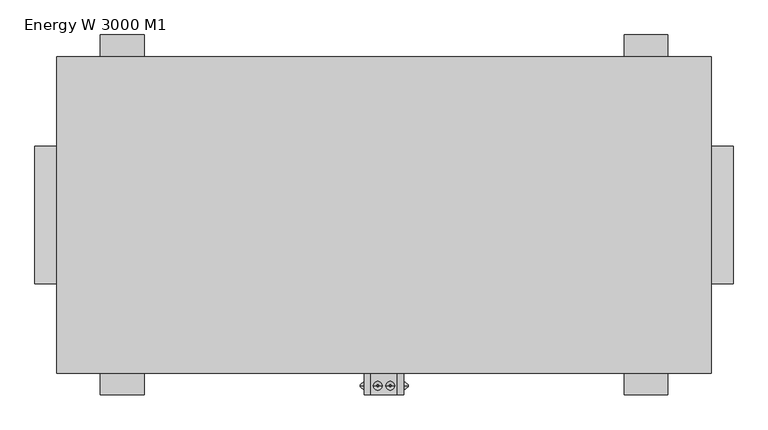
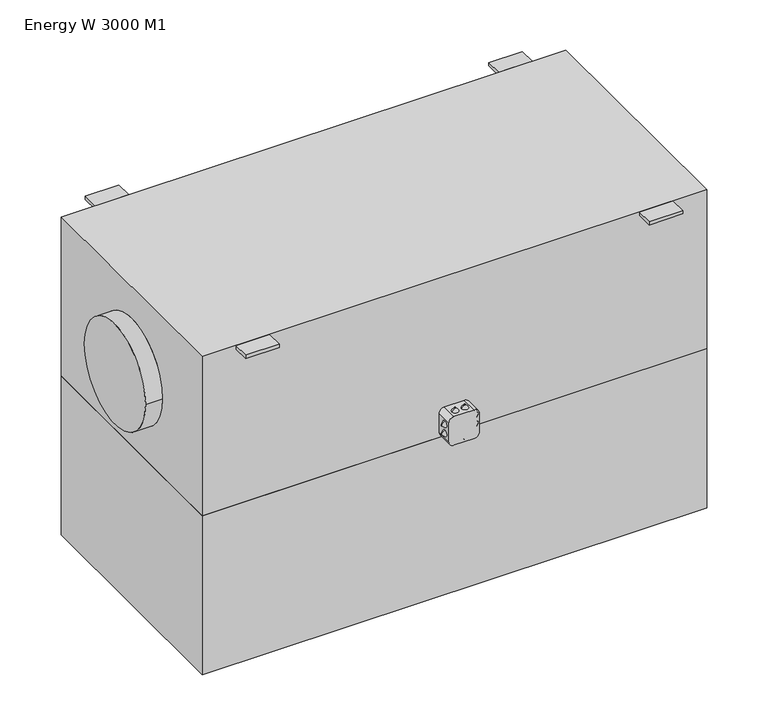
"""IFC4 building model written with IfcOpenShell, lengths in millimetres: proxy geometry, ADSK_КПВУ_ENERGY W_круглая : Energy W 3000 M1."""

from ifc_helpers import new_model, si_unit, point, frame, frame_2d, origin, place, context, project, spatial, polyline, circle_curve, trimmed, segment, composite_curve, outline, extrude, source, transform, mapped, element, save
from ifc_brep_helpers import plane_surface, cylinder_surface, revolved_surface, advanced_brep


def energy_w_3000_m1_f00fbe06(model_context):
    return source(origin(), model_context, "Body", "SolidModel", [
        advanced_brep(
        [(211.0, -391.4311792, -221.7092609), (211.0, -391.4311792, -217.7092609), (221.0, -391.4311792, -229.7092609), (221.0, -391.4311792, -209.7092609)],
        [
            (0, 1, circle_curve(frame((211.0, -391.4311792, -219.7092609), z_axis=(-1.0, 0.0, 0.0), x_axis=(0.0, 0.0, -1.0)), 2.0)),
            (1, 0, circle_curve(frame((211.0, -391.4311792, -219.7092609), z_axis=(-1.0, 0.0, 0.0), x_axis=(0.0, 0.0, 1.0)), 2.0)),
            (2, 3, circle_curve(frame((221.0, -391.4311792, -219.7092609), z_axis=(1.0, 0.0, 0.0), x_axis=(0.0, 0.0, 1.0)), 10.0)),
            (3, 2, circle_curve(frame((221.0, -391.4311792, -219.7092609), z_axis=(1.0, 0.0, 0.0), x_axis=(0.0, 0.0, -1.0)), 10.0)),
            (2, 0),
            (1, 3),
        ],
        [
            plane_surface(frame((211.0, -391.4311792, -219.7092609), z_axis=(-1.0, 0.0, 0.0), x_axis=(0.0, -1.0, 0.0))),
            plane_surface(frame((221.0, -391.4311792, -219.7092609), z_axis=(1.0, 0.0, 0.0), x_axis=(0.0, -1.0, 0.0))),
            revolved_surface(polyline([(211.0, -391.4311792, -217.7092609), (221.0, -391.4311792, -209.7092609)]), (208.5, -391.4311792, -219.7092609), (1.0, 0.0, 0.0)),
            revolved_surface(polyline([(211.0, -391.4311792, -221.7092609), (221.0, -391.4311792, -229.7092609)]), (208.5, -391.4311792, -219.7092609), (1.0, 0.0, 0.0)),
        ],
        [
            (0, [[1, 2]]),
            (1, [[3, 4]]),
            (2, [[-3, 5, -2, 6]]),
            (3, [[-4, -6, -1, -5]]),
        ],
    ),
        advanced_brep(
        [(211.0, -391.4311792, -189.0531164), (211.0, -391.4311792, -193.0531164), (221.0, -391.4311792, -181.0531164), (221.0, -391.4311792, -201.0531164)],
        [
            (0, 1, circle_curve(frame((211.0, -391.4311792, -191.0531164), z_axis=(-1.0, 0.0, 0.0), x_axis=(0.0, 0.0, 1.0)), 2.0)),
            (1, 0, circle_curve(frame((211.0, -391.4311792, -191.0531164), z_axis=(-1.0, 0.0, 0.0), x_axis=(0.0, 0.0, -1.0)), 2.0)),
            (2, 3, circle_curve(frame((221.0, -391.4311792, -191.0531164), z_axis=(1.0, 0.0, 0.0), x_axis=(0.0, 0.0, -1.0)), 10.0)),
            (3, 2, circle_curve(frame((221.0, -391.4311792, -191.0531164), z_axis=(1.0, 0.0, 0.0), x_axis=(0.0, 0.0, 1.0)), 10.0)),
            (3, 1),
            (0, 2),
        ],
        [
            plane_surface(frame((211.0, -391.4311792, -191.0531164), z_axis=(-1.0, 0.0, 0.0), x_axis=(0.0, 1.0, 0.0))),
            plane_surface(frame((221.0, -391.4311792, -191.0531164), z_axis=(1.0, 0.0, 0.0), x_axis=(0.0, 1.0, 0.0))),
            revolved_surface(polyline([(211.0, -391.4311792, -189.0531164), (221.0, -391.4311792, -181.0531164)]), (208.5, -391.4311792, -191.0531164), (1.0, 0.0, 0.0)),
            revolved_surface(polyline([(211.0, -391.4311792, -193.0531164), (221.0, -391.4311792, -201.0531164)]), (208.5, -391.4311792, -191.0531164), (1.0, 0.0, 0.0)),
        ],
        [
            (0, [[1, 2]]),
            (1, [[3, 4]]),
            (2, [[-4, 5, -1, 6]]),
            (3, [[-3, -6, -2, -5]]),
        ],
    ),
        advanced_brep(
        [(321.0, -391.4311792, -221.7092609), (321.0, -391.4311792, -217.7092609), (311.0, -391.4311792, -229.7092609), (311.0, -391.4311792, -209.7092609)],
        [
            (0, 1, circle_curve(frame((321.0, -391.4311792, -219.7092609), z_axis=(1.0, 0.0, 0.0), x_axis=(0.0, 0.0, -1.0)), 2.0)),
            (1, 0, circle_curve(frame((321.0, -391.4311792, -219.7092609), z_axis=(1.0, 0.0, 0.0), x_axis=(0.0, 0.0, 1.0)), 2.0)),
            (2, 3, circle_curve(frame((311.0, -391.4311792, -219.7092609), z_axis=(-1.0, 0.0, 0.0), x_axis=(0.0, 0.0, 1.0)), 10.0)),
            (3, 2, circle_curve(frame((311.0, -391.4311792, -219.7092609), z_axis=(-1.0, 0.0, 0.0), x_axis=(0.0, 0.0, -1.0)), 10.0)),
            (3, 1),
            (0, 2),
        ],
        [
            plane_surface(frame((321.0, -391.4311792, -219.7092609), z_axis=(1.0, 0.0, 0.0), x_axis=(0.0, 1.0, 0.0))),
            plane_surface(frame((311.0, -391.4311792, -219.7092609), z_axis=(-1.0, 0.0, 0.0), x_axis=(0.0, 1.0, 0.0))),
            revolved_surface(polyline([(321.0, -391.4311792, -221.7092609), (311.0, -391.4311792, -229.7092609)]), (323.5, -391.4311792, -219.7092609), (-1.0, 0.0, 0.0)),
            revolved_surface(polyline([(321.0, -391.4311792, -217.7092609), (311.0, -391.4311792, -209.7092609)]), (323.5, -391.4311792, -219.7092609), (-1.0, 0.0, 0.0)),
        ],
        [
            (0, [[1, 2]]),
            (1, [[3, 4]]),
            (2, [[-4, 5, -1, 6]]),
            (3, [[-3, -6, -2, -5]]),
        ],
    ),
        advanced_brep(
        [(321.0, -391.4311792, -189.0531164), (321.0, -391.4311792, -193.0531164), (311.0, -391.4311792, -181.0531164), (311.0, -391.4311792, -201.0531164)],
        [
            (0, 1, circle_curve(frame((321.0, -391.4311792, -191.0531164), z_axis=(1.0, 0.0, 0.0), x_axis=(0.0, 0.0, 1.0)), 2.0)),
            (1, 0, circle_curve(frame((321.0, -391.4311792, -191.0531164), z_axis=(1.0, 0.0, 0.0), x_axis=(0.0, 0.0, -1.0)), 2.0)),
            (2, 3, circle_curve(frame((311.0, -391.4311792, -191.0531164), z_axis=(-1.0, 0.0, 0.0), x_axis=(0.0, 0.0, -1.0)), 10.0)),
            (3, 2, circle_curve(frame((311.0, -391.4311792, -191.0531164), z_axis=(-1.0, 0.0, 0.0), x_axis=(0.0, 0.0, 1.0)), 10.0)),
            (2, 0),
            (1, 3),
        ],
        [
            plane_surface(frame((321.0, -391.4311792, -191.0531164), z_axis=(1.0, 0.0, 0.0), x_axis=(0.0, -1.0, 0.0))),
            plane_surface(frame((311.0, -391.4311792, -191.0531164), z_axis=(-1.0, 0.0, 0.0), x_axis=(0.0, -1.0, 0.0))),
            revolved_surface(polyline([(321.0, -391.4311792, -193.0531164), (311.0, -391.4311792, -201.0531164)]), (323.5, -391.4311792, -191.0531164), (-1.0, 0.0, 0.0)),
            revolved_surface(polyline([(321.0, -391.4311792, -189.0531164), (311.0, -391.4311792, -181.0531164)]), (323.5, -391.4311792, -191.0531164), (-1.0, 0.0, 0.0)),
        ],
        [
            (0, [[1, 2]]),
            (1, [[3, 4]]),
            (2, [[-3, 5, -2, 6]]),
            (3, [[-4, -6, -1, -5]]),
        ],
    ),
        advanced_brep(
        [(249.6719278, -391.4311792, -260.0), (253.6719278, -391.4311792, -260.0), (241.6719278, -391.4311792, -250.0), (261.6719278, -391.4311792, -250.0)],
        [
            (0, 1, circle_curve(frame((251.6719278, -391.4311792, -260.0), z_axis=(0.0, 0.0, -1.0), x_axis=(-1.0, 0.0, 0.0)), 2.0)),
            (1, 0, circle_curve(frame((251.6719278, -391.4311792, -260.0), z_axis=(0.0, 0.0, -1.0), x_axis=(1.0, 0.0, 0.0)), 2.0)),
            (2, 3, circle_curve(frame((251.6719278, -391.4311792, -250.0), z_axis=(0.0, 0.0, 1.0), x_axis=(1.0, 0.0, 0.0)), 10.0)),
            (3, 2, circle_curve(frame((251.6719278, -391.4311792, -250.0), z_axis=(0.0, 0.0, 1.0), x_axis=(-1.0, 0.0, 0.0)), 10.0)),
            (3, 1),
            (0, 2),
        ],
        [
            plane_surface(frame((251.6719278, -391.4311792, -260.0), z_axis=(0.0, 0.0, -1.0), x_axis=(0.0, 1.0, 0.0))),
            plane_surface(frame((251.6719278, -391.4311792, -250.0), z_axis=(0.0, 0.0, 1.0), x_axis=(0.0, 1.0, 0.0))),
            revolved_surface(polyline([(249.6719278, -391.4311792, -260.0), (241.6719278, -391.4311792, -250.0)]), (251.6719278, -391.4311792, -262.5), (0.0, 0.0, 1.0)),
            revolved_surface(polyline([(253.6719278, -391.4311792, -260.0), (261.6719278, -391.4311792, -250.0)]), (251.6719278, -391.4311792, -262.5), (0.0, 0.0, 1.0)),
        ],
        [
            (0, [[1, 2]]),
            (1, [[3, 4]]),
            (2, [[-4, 5, -1, 6]]),
            (3, [[-3, -6, -2, -5]]),
        ],
    ),
        advanced_brep(
        [(282.3280722, -391.4311792, -260.0), (278.3280722, -391.4311792, -260.0), (290.3280722, -391.4311792, -250.0), (270.3280722, -391.4311792, -250.0)],
        [
            (0, 1, circle_curve(frame((280.3280722, -391.4311792, -260.0), z_axis=(0.0, 0.0, -1.0), x_axis=(1.0, 0.0, 0.0)), 2.0)),
            (1, 0, circle_curve(frame((280.3280722, -391.4311792, -260.0), z_axis=(0.0, 0.0, -1.0), x_axis=(-1.0, 0.0, 0.0)), 2.0)),
            (2, 3, circle_curve(frame((280.3280722, -391.4311792, -250.0), z_axis=(0.0, 0.0, 1.0), x_axis=(-1.0, 0.0, 0.0)), 10.0)),
            (3, 2, circle_curve(frame((280.3280722, -391.4311792, -250.0), z_axis=(0.0, 0.0, 1.0), x_axis=(1.0, 0.0, 0.0)), 10.0)),
            (2, 0),
            (1, 3),
        ],
        [
            plane_surface(frame((280.3280722, -391.4311792, -260.0), z_axis=(0.0, 0.0, -1.0), x_axis=(0.0, -1.0, 0.0))),
            plane_surface(frame((280.3280722, -391.4311792, -250.0), z_axis=(0.0, 0.0, 1.0), x_axis=(0.0, -1.0, 0.0))),
            revolved_surface(polyline([(278.3280722, -391.4311792, -260.0), (270.3280722, -391.4311792, -250.0)]), (280.3280722, -391.4311792, -262.5), (0.0, 0.0, 1.0)),
            revolved_surface(polyline([(282.3280722, -391.4311792, -260.0), (290.3280722, -391.4311792, -250.0)]), (280.3280722, -391.4311792, -262.5), (0.0, 0.0, 1.0)),
        ],
        [
            (0, [[1, 2]]),
            (1, [[3, 4]]),
            (2, [[-3, 5, -2, 6]]),
            (3, [[-4, -6, -1, -5]]),
        ],
    ),
        advanced_brep(
        [(249.6719278, -391.4311792, -150.0), (253.6719278, -391.4311792, -150.0), (241.6719278, -391.4311792, -160.0), (261.6719278, -391.4311792, -160.0)],
        [
            (0, 1, circle_curve(frame((251.6719278, -391.4311792, -150.0), z_axis=(0.0, 0.0, 1.0), x_axis=(-1.0, 0.0, 0.0)), 2.0)),
            (1, 0, circle_curve(frame((251.6719278, -391.4311792, -150.0), z_axis=(0.0, 0.0, 1.0), x_axis=(1.0, 0.0, 0.0)), 2.0)),
            (2, 3, circle_curve(frame((251.6719278, -391.4311792, -160.0), z_axis=(0.0, 0.0, -1.0), x_axis=(1.0, 0.0, 0.0)), 10.0)),
            (3, 2, circle_curve(frame((251.6719278, -391.4311792, -160.0), z_axis=(0.0, 0.0, -1.0), x_axis=(-1.0, 0.0, 0.0)), 10.0)),
            (2, 0),
            (1, 3),
        ],
        [
            plane_surface(frame((251.6719278, -391.4311792, -150.0), z_axis=(0.0, 0.0, 1.0), x_axis=(0.0, -1.0, 0.0))),
            plane_surface(frame((251.6719278, -391.4311792, -160.0), z_axis=(0.0, 0.0, -1.0), x_axis=(0.0, -1.0, 0.0))),
            revolved_surface(polyline([(253.6719278, -391.4311792, -150.0), (261.6719278, -391.4311792, -160.0)]), (251.6719278, -391.4311792, -147.5), (0.0, 0.0, -1.0)),
            revolved_surface(polyline([(249.6719278, -391.4311792, -150.0), (241.6719278, -391.4311792, -160.0)]), (251.6719278, -391.4311792, -147.5), (0.0, 0.0, -1.0)),
        ],
        [
            (0, [[1, 2]]),
            (1, [[3, 4]]),
            (2, [[-3, 5, -2, 6]]),
            (3, [[-4, -6, -1, -5]]),
        ],
    ),
        advanced_brep(
        [(282.3280722, -391.4311792, -150.0), (278.3280722, -391.4311792, -150.0), (290.3280722, -391.4311792, -160.0), (270.3280722, -391.4311792, -160.0)],
        [
            (0, 1, circle_curve(frame((280.3280722, -391.4311792, -150.0), z_axis=(0.0, 0.0, 1.0), x_axis=(1.0, 0.0, 0.0)), 2.0)),
            (1, 0, circle_curve(frame((280.3280722, -391.4311792, -150.0), z_axis=(0.0, 0.0, 1.0), x_axis=(-1.0, 0.0, 0.0)), 2.0)),
            (2, 3, circle_curve(frame((280.3280722, -391.4311792, -160.0), z_axis=(0.0, 0.0, -1.0), x_axis=(-1.0, 0.0, 0.0)), 10.0)),
            (3, 2, circle_curve(frame((280.3280722, -391.4311792, -160.0), z_axis=(0.0, 0.0, -1.0), x_axis=(1.0, 0.0, 0.0)), 10.0)),
            (3, 1),
            (0, 2),
        ],
        [
            plane_surface(frame((280.3280722, -391.4311792, -150.0), z_axis=(0.0, 0.0, 1.0), x_axis=(0.0, 1.0, 0.0))),
            plane_surface(frame((280.3280722, -391.4311792, -160.0), z_axis=(0.0, 0.0, -1.0), x_axis=(0.0, 1.0, 0.0))),
            revolved_surface(polyline([(282.3280722, -391.4311792, -150.0), (290.3280722, -391.4311792, -160.0)]), (280.3280722, -391.4311792, -147.5), (0.0, 0.0, -1.0)),
            revolved_surface(polyline([(278.3280722, -391.4311792, -150.0), (270.3280722, -391.4311792, -160.0)]), (280.3280722, -391.4311792, -147.5), (0.0, 0.0, -1.0)),
        ],
        [
            (0, [[1, 2]]),
            (1, [[3, 4]]),
            (2, [[-4, 5, -1, 6]]),
            (3, [[-3, -6, -2, -5]]),
        ],
    ),
        extrude(outline(composite_curve([segment(polyline([(-250.0, 236.0), (-250.0, 296.0)]), True, "CONTINUOUS"), segment(trimmed(circle_curve(frame_2d((-235.0, 296.0)), 15.0), [point((-250.0, 296.0))], [point((-235.0, 311.0))], False, "CARTESIAN"), True, "CONTINUOUS"), segment(polyline([(-235.0, 311.0), (-175.0, 311.0)]), True, "CONTINUOUS"), segment(trimmed(circle_curve(frame_2d((-175.0, 296.0)), 15.0), [point((-175.0, 311.0))], [point((-160.0, 296.0))], False, "CARTESIAN"), True, "CONTINUOUS"), segment(polyline([(-160.0, 296.0), (-160.0, 236.0)]), True, "CONTINUOUS"), segment(trimmed(circle_curve(frame_2d((-175.0, 236.0)), 15.0), [point((-160.0, 236.0))], [point((-175.0, 221.0))], False, "CARTESIAN"), True, "CONTINUOUS"), segment(polyline([(-175.0, 221.0), (-235.0, 221.0)]), True, "CONTINUOUS"), segment(trimmed(circle_curve(frame_2d((-235.0, 236.0)), 15.0), [point((-235.0, 221.0))], [point((-250.0, 236.0))], False, "CARTESIAN"), True, "CONTINUOUS")], self_intersect=False)), frame((0.0, -412.5, 0.0), z_axis=(0.0, 1.0, 0.0), x_axis=(0.0, 0.0, 1.0)), (0.0, 0.0, 1.0), 50.0),
        advanced_brep(
        [(1016.0, -362.5, 250.0), (1016.0, -362.5, -250.0), (1016.0, 362.5, -250.0), (1016.0, 362.5, 250.0), (1016.0, 157.5, -7.0), (1016.0, -157.5, -7.0), (-484.0, -362.5, 250.0), (-484.0, 362.5, 250.0), (-484.0, 362.5, -250.0), (-484.0, -362.5, -250.0), (-484.0, 157.5, -7.0), (-484.0, -157.5, -7.0), (-534.0, -157.5, -7.0), (-534.0, 157.5, -7.0), (1066.0, -157.5, -7.0), (1066.0, 157.5, -7.0)],
        [
            (0, 1),
            (1, 2),
            (2, 3),
            (3, 0),
            (4, 5, circle_curve(frame((1016.0, 0.0, -7.0), z_axis=(-1.0, 0.0, 0.0), x_axis=(0.0, 1.0, 0.0)), 157.5)),
            (5, 4, circle_curve(frame((1016.0, 0.0, -7.0), z_axis=(-1.0, 0.0, 0.0), x_axis=(0.0, 1.0, 0.0)), 157.5)),
            (6, 7),
            (7, 8),
            (8, 9),
            (9, 6),
            (10, 11, circle_curve(frame((-484.0, 0.0, -7.0), z_axis=(1.0, 0.0, 0.0), x_axis=(0.0, 1.0, 0.0)), 157.5)),
            (11, 10, circle_curve(frame((-484.0, 0.0, -7.0), z_axis=(1.0, 0.0, 0.0), x_axis=(0.0, 1.0, 0.0)), 157.5)),
            (12, 13, circle_curve(frame((-534.0, 0.0, -7.0), z_axis=(-1.0, 0.0, 0.0), x_axis=(0.0, 1.0, 0.0)), 157.5)),
            (13, 12, circle_curve(frame((-534.0, 0.0, -7.0), z_axis=(-1.0, 0.0, 0.0), x_axis=(0.0, 1.0, 0.0)), 157.5)),
            (0, 6),
            (9, 1),
            (8, 2),
            (7, 3),
            (12, 11),
            (10, 13),
            (14, 15, circle_curve(frame((1066.0, 0.0, -7.0), z_axis=(1.0, 0.0, 0.0), x_axis=(0.0, 1.0, 0.0)), 157.5)),
            (15, 14, circle_curve(frame((1066.0, 0.0, -7.0), z_axis=(1.0, 0.0, 0.0), x_axis=(0.0, 1.0, 0.0)), 157.5)),
            (14, 5),
            (4, 15),
        ],
        [
            plane_surface(frame((1016.0, -362.5, 250.0), z_axis=(1.0, 0.0, 0.0), x_axis=(0.0, 0.0, -1.0))),
            plane_surface(frame((-484.0, -362.5, 250.0), z_axis=(-1.0, 0.0, 0.0), x_axis=(0.0, 0.0, 1.0))),
            plane_surface(frame((-534.0, 157.5, -7.0), z_axis=(-1.0, 0.0, 0.0), x_axis=(0.0, 0.0, -1.0))),
            plane_surface(frame((1016.0, -362.5, 250.0), z_axis=(0.0, -1.0, 0.0), x_axis=(-1.0, 0.0, 0.0))),
            plane_surface(frame((1016.0, -362.5, -250.0), z_axis=(0.0, 0.0, -1.0), x_axis=(-1.0, 0.0, 0.0))),
            plane_surface(frame((1016.0, 362.5, -250.0), z_axis=(0.0, 1.0, 0.0), x_axis=(-1.0, 0.0, 0.0))),
            plane_surface(frame((1016.0, 362.5, 250.0), z_axis=(0.0, 0.0, 1.0), x_axis=(-1.0, 0.0, 0.0))),
            cylinder_surface(frame((-534.0, 0.0, -7.0), z_axis=(1.0, 0.0, 0.0), x_axis=(0.0, 1.0, 0.0)), 157.5),
            plane_surface(frame((1066.0, 157.5, -7.0), z_axis=(1.0, 0.0, 0.0), x_axis=(0.0, 0.0, 1.0))),
            cylinder_surface(frame((1016.0, 0.0, -7.0), z_axis=(1.0, 0.0, 0.0), x_axis=(0.0, 1.0, 0.0)), 157.5),
        ],
        [
            (0, [[1, 2, 3, 4], [5, 6]]),
            (1, [[7, 8, 9, 10], [11, 12]]),
            (2, [[13, 14]]),
            (3, [[-1, 15, -10, 16]]),
            (4, [[-2, -16, -9, 17]]),
            (5, [[-3, -17, -8, 18]]),
            (6, [[-4, -18, -7, -15]]),
            (7, [[-13, 19, -11, 20]]),
            (7, [[-14, -20, -12, -19]]),
            (8, [[21, 22]]),
            (9, [[-21, 23, -5, 24]]),
            (9, [[-22, -24, -6, -23]]),
        ],
    ),
        extrude(outline(polyline([(-284.0, 412.5), (-284.0, 362.5), (-384.0, 362.5), (-384.0, 412.5), (-284.0, 412.5)])), frame((0.0, 0.0, 240.0), z_axis=(0.0, 0.0, 1.0), x_axis=(1.0, 0.0, 0.0)), (0.0, 0.0, 1.0), 10.0),
        extrude(outline(polyline([(816.0, 412.5), (916.0, 412.5), (916.0, 362.5), (816.0, 362.5), (816.0, 412.5)])), frame((0.0, 0.0, 240.0), z_axis=(0.0, 0.0, 1.0), x_axis=(1.0, 0.0, 0.0)), (0.0, 0.0, 1.0), 10.0),
        extrude(outline(polyline([(-284.0, -412.5), (-384.0, -412.5), (-384.0, -362.5), (-284.0, -362.5), (-284.0, -412.5)])), frame((0.0, 0.0, 240.0), z_axis=(0.0, 0.0, 1.0), x_axis=(1.0, 0.0, 0.0)), (0.0, 0.0, 1.0), 10.0),
        extrude(outline(polyline([(816.0, -412.5), (816.0, -362.5), (916.0, -362.5), (916.0, -412.5), (816.0, -412.5)])), frame((0.0, 0.0, 240.0), z_axis=(0.0, 0.0, 1.0), x_axis=(1.0, 0.0, 0.0)), (0.0, 0.0, 1.0), 10.0),
        extrude(outline(polyline([(1016.0, 362.5), (1016.0, -362.5), (-484.0, -362.5), (-484.0, 362.5), (1016.0, 362.5)])), frame((0.0, 0.0, -750.0), z_axis=(0.0, 0.0, 1.0), x_axis=(1.0, 0.0, 0.0)), (0.0, 0.0, 1.0), 500.0),
    ])


if __name__ == "__main__":
    model = new_model("IFC4")
    model_context = context("Model", 3, world=origin())
    ifc_project = project(units=[si_unit("LENGTHUNIT", "METRE", prefix="MILLI")], contexts=[model_context])
    site = spatial("IfcSite", under=ifc_project)
    building = spatial("IfcBuilding", under=site)
    placement = place(None, origin())
    energy_w_3000_m1_shape = energy_w_3000_m1_f00fbe06(model_context)
    element("IfcBuildingElementProxy", 1, Name="ADSK_КПВУ_ENERGY W_круглая : Energy W 3000 M1", ObjectType="ADSK_КПВУ_ENERGY W_круглая : Energy W 3000 M1", at=placement, inside=building, context=model_context, shape_type="MappedRepresentation", body=[
        mapped(energy_w_3000_m1_shape, transform((0.0, 0.0, 0.0), x_axis=(1.0, 0.0, 0.0), y_axis=(0.0, 1.0, 0.0), z_axis=(0.0, 0.0, 1.0))),
    ])
    save(model, "model.ifc")
